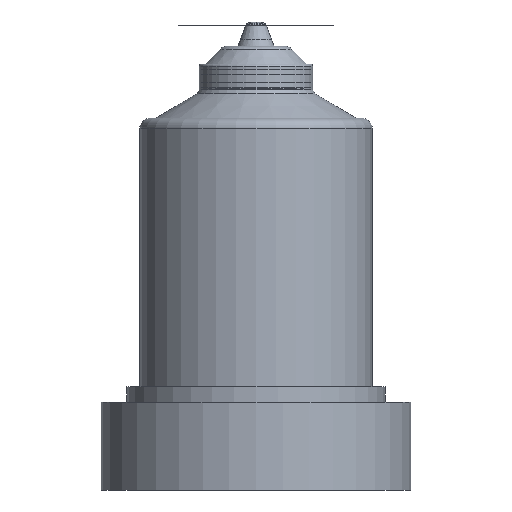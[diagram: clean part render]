
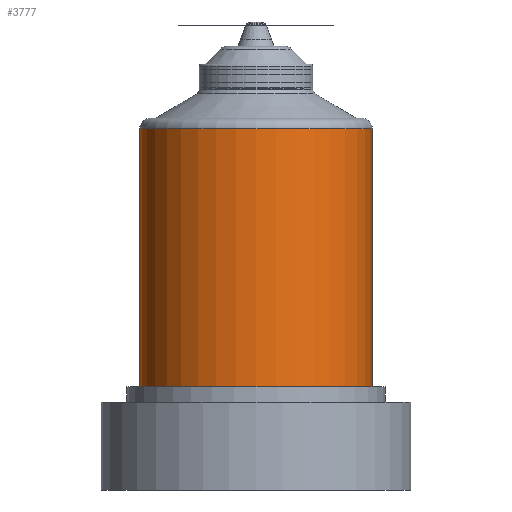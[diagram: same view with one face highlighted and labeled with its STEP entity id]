
A CAD part, front view. The second image highlights one B-rep face of the part: STEP entity #3777.
In plain terms, the highlighted cylindrical face has radius 22.5 mm (diameter 45 mm), a partial arc.
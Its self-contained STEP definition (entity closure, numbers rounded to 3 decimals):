
#531 = CARTESIAN_POINT ( 'NONE',  ( 0., 0., 78. ) ) ;
#659 = CARTESIAN_POINT ( 'NONE',  ( -22.5, 0., 85. ) ) ;
#712 = DIRECTION ( 'NONE',  ( 0., 0., -1. ) ) ;
#836 = ORIENTED_EDGE ( 'NONE', *, *, #7174, .F. ) ;
#851 = VERTEX_POINT ( 'NONE', #7429 ) ;
#865 = DIRECTION ( 'NONE',  ( 1., 0., 0. ) ) ;
#1043 = CARTESIAN_POINT ( 'NONE',  ( -22.5, 0., 78. ) ) ;
#1250 = ORIENTED_EDGE ( 'NONE', *, *, #4097, .F. ) ;
#1733 = CARTESIAN_POINT ( 'NONE',  ( 0., 0., 35. ) ) ;
#2123 = DIRECTION ( 'NONE',  ( 0., 0., 1. ) ) ;
#2957 = EDGE_LOOP ( 'NONE', ( #836, #1250, #8874, #3469 ) ) ;
#2981 = DIRECTION ( 'NONE',  ( 1., 0., 0. ) ) ;
#3469 = ORIENTED_EDGE ( 'NONE', *, *, #9170, .T. ) ;
#3500 = FACE_OUTER_BOUND ( 'NONE', #2957, .T. ) ;
#3708 = CARTESIAN_POINT ( 'NONE',  ( 0., 0., 85. ) ) ;
#3777 = ADVANCED_FACE ( 'NONE', ( #3500 ), #9191, .T. ) ;
#3940 = LINE ( 'NONE', #1043, #7786 ) ;
#4097 = EDGE_CURVE ( 'NONE', #6377, #5701, #10568, .T. ) ;
#5503 = LINE ( 'NONE', #7089, #9214 ) ;
#5701 = VERTEX_POINT ( 'NONE', #7385 ) ;
#5859 = DIRECTION ( 'NONE',  ( 0., 0., 1. ) ) ;
#6002 = DIRECTION ( 'NONE',  ( 0., 0., -1. ) ) ;
#6014 = EDGE_CURVE ( 'NONE', #6377, #851, #3940, .T. ) ;
#6377 = VERTEX_POINT ( 'NONE', #659 ) ;
#6777 = DIRECTION ( 'NONE',  ( -1., 0., 0. ) ) ;
#7089 = CARTESIAN_POINT ( 'NONE',  ( 22.5, 0., 78. ) ) ;
#7174 = EDGE_CURVE ( 'NONE', #5701, #8019, #5503, .T. ) ;
#7385 = CARTESIAN_POINT ( 'NONE',  ( 22.5, 0., 85. ) ) ;
#7429 = CARTESIAN_POINT ( 'NONE',  ( -22.5, 0., 35. ) ) ;
#7535 = CARTESIAN_POINT ( 'NONE',  ( 22.5, 0., 35. ) ) ;
#7786 = VECTOR ( 'NONE', #6002, 1000. ) ;
#8019 = VERTEX_POINT ( 'NONE', #7535 ) ;
#8382 = CIRCLE ( 'NONE', #9259, 22.5 ) ;
#8722 = DIRECTION ( 'NONE',  ( 0., 0., -1. ) ) ;
#8874 = ORIENTED_EDGE ( 'NONE', *, *, #6014, .T. ) ;
#9170 = EDGE_CURVE ( 'NONE', #851, #8019, #8382, .T. ) ;
#9191 = CYLINDRICAL_SURFACE ( 'NONE', #10014, 22.5 ) ;
#9214 = VECTOR ( 'NONE', #8722, 1000. ) ;
#9259 = AXIS2_PLACEMENT_3D ( 'NONE', #1733, #5859, #865 ) ;
#10014 = AXIS2_PLACEMENT_3D ( 'NONE', #531, #712, #6777 ) ;
#10568 = CIRCLE ( 'NONE', #10869, 22.5 ) ;
#10869 = AXIS2_PLACEMENT_3D ( 'NONE', #3708, #2123, #2981 ) ;
